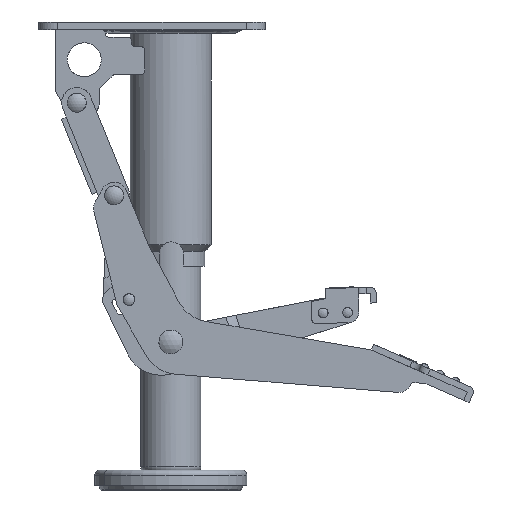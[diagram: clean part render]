
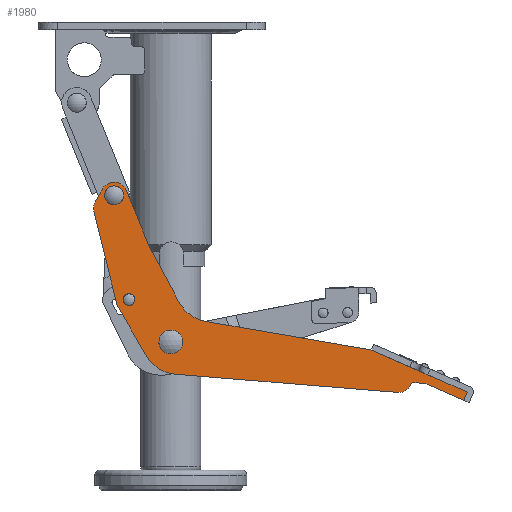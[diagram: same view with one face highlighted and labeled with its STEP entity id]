
A CAD part, left-side view. The second image highlights one B-rep face of the part: STEP entity #1980.
In plain terms, the highlighted planar face has unit normal (-1, 0, 0).
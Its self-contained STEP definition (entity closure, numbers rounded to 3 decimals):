
#1980 = ADVANCED_FACE( '', ( #4052 ), #4053, .T. );
#4052 = FACE_OUTER_BOUND( '', #9283, .T. );
#4053 = PLANE( '', #9284 );
#9283 = EDGE_LOOP( '', ( #14678, #14679, #14680, #14681, #14682, #14683, #14684, #14685, #14686, #14687, #14688, #14689, #14690, #14691, #14692, #14693, #14694, #14695, #14696, #14697 ) );
#9284 = AXIS2_PLACEMENT_3D( '', #14698, #14699, #14700 );
#14678 = ORIENTED_EDGE( '', *, *, #17126, .F. );
#14679 = ORIENTED_EDGE( '', *, *, #17314, .F. );
#14680 = ORIENTED_EDGE( '', *, *, #17470, .F. );
#14681 = ORIENTED_EDGE( '', *, *, #17434, .F. );
#14682 = ORIENTED_EDGE( '', *, *, #16922, .F. );
#14683 = ORIENTED_EDGE( '', *, *, #16864, .F. );
#14684 = ORIENTED_EDGE( '', *, *, #15540, .F. );
#14685 = ORIENTED_EDGE( '', *, *, #16498, .F. );
#14686 = ORIENTED_EDGE( '', *, *, #17439, .F. );
#14687 = ORIENTED_EDGE( '', *, *, #15504, .F. );
#14688 = ORIENTED_EDGE( '', *, *, #17471, .F. );
#14689 = ORIENTED_EDGE( '', *, *, #17210, .F. );
#14690 = ORIENTED_EDGE( '', *, *, #16904, .F. );
#14691 = ORIENTED_EDGE( '', *, *, #17322, .F. );
#14692 = ORIENTED_EDGE( '', *, *, #16393, .F. );
#14693 = ORIENTED_EDGE( '', *, *, #17386, .F. );
#14694 = ORIENTED_EDGE( '', *, *, #17310, .F. );
#14695 = ORIENTED_EDGE( '', *, *, #17472, .F. );
#14696 = ORIENTED_EDGE( '', *, *, #17473, .F. );
#14697 = ORIENTED_EDGE( '', *, *, #17474, .F. );
#14698 = CARTESIAN_POINT( '', ( -30.4, -221.398, -215.539 ) );
#14699 = DIRECTION( '', ( -1., 0., 0. ) );
#14700 = DIRECTION( '', ( 0., 0.999, 0.047 ) );
#15504 = EDGE_CURVE( '', #17899, #17901, #17902, .T. );
#15540 = EDGE_CURVE( '', #17965, #17967, #17968, .T. );
#16393 = EDGE_CURVE( '', #19368, #19370, #19371, .T. );
#16498 = EDGE_CURVE( '', #19538, #17965, #19540, .T. );
#16864 = EDGE_CURVE( '', #17967, #20084, #20085, .T. );
#16904 = EDGE_CURVE( '', #20140, #20142, #20143, .T. );
#16922 = EDGE_CURVE( '', #20084, #20166, #20167, .T. );
#17126 = EDGE_CURVE( '', #20437, #20439, #20440, .F. );
#17210 = EDGE_CURVE( '', #20142, #20552, #20553, .T. );
#17310 = EDGE_CURVE( '', #20662, #20664, #20665, .T. );
#17314 = EDGE_CURVE( '', #20668, #20437, #20670, .T. );
#17322 = EDGE_CURVE( '', #19370, #20140, #20678, .F. );
#17386 = EDGE_CURVE( '', #20664, #19368, #20750, .F. );
#17434 = EDGE_CURVE( '', #20166, #20805, #20806, .T. );
#17439 = EDGE_CURVE( '', #17901, #19538, #20811, .T. );
#17470 = EDGE_CURVE( '', #20805, #20668, #20846, .F. );
#17471 = EDGE_CURVE( '', #20552, #17899, #20847, .T. );
#17472 = EDGE_CURVE( '', #20848, #20662, #20849, .T. );
#17473 = EDGE_CURVE( '', #20850, #20848, #20851, .T. );
#17474 = EDGE_CURVE( '', #20439, #20850, #20852, .T. );
#17899 = VERTEX_POINT( '', #21886 );
#17901 = VERTEX_POINT( '', #21889 );
#17902 = LINE( '', #21890, #21891 );
#17965 = VERTEX_POINT( '', #22071 );
#17967 = VERTEX_POINT( '', #22074 );
#17968 = CIRCLE( '', #22075, 7. );
#19368 = VERTEX_POINT( '', #26435 );
#19370 = VERTEX_POINT( '', #26438 );
#19371 = LINE( '', #26439, #26440 );
#19538 = VERTEX_POINT( '', #26960 );
#19540 = LINE( '', #26963, #26964 );
#20084 = VERTEX_POINT( '', #28575 );
#20085 = LINE( '', #28576, #28577 );
#20140 = VERTEX_POINT( '', #28751 );
#20142 = VERTEX_POINT( '', #28754 );
#20143 = CIRCLE( '', #28755, 6. );
#20166 = VERTEX_POINT( '', #28797 );
#20167 = CIRCLE( '', #28798, 7. );
#20437 = VERTEX_POINT( '', #29518 );
#20439 = VERTEX_POINT( '', #29521 );
#20440 = CIRCLE( '', #29522, 20. );
#20552 = VERTEX_POINT( '', #29983 );
#20553 = LINE( '', #29984, #29985 );
#20662 = VERTEX_POINT( '', #30290 );
#20664 = VERTEX_POINT( '', #30293 );
#20665 = LINE( '', #30294, #30295 );
#20668 = VERTEX_POINT( '', #30299 );
#20670 = LINE( '', #30302, #30303 );
#20678 = CIRCLE( '', #30312, 2. );
#20750 = CIRCLE( '', #30518, 6. );
#20805 = VERTEX_POINT( '', #30637 );
#20806 = LINE( '', #30638, #30639 );
#20811 = CIRCLE( '', #30646, 7. );
#20846 = CIRCLE( '', #30731, 7. );
#20847 = CIRCLE( '', #30732, 20. );
#20848 = VERTEX_POINT( '', #30733 );
#20849 = LINE( '', #30734, #30735 );
#20850 = VERTEX_POINT( '', #30736 );
#20851 = LINE( '', #30737, #30738 );
#20852 = LINE( '', #30739, #30740 );
#21886 = CARTESIAN_POINT( '', ( -30.4, 13.153, -176.697 ) );
#21889 = CARTESIAN_POINT( '', ( -30.4, 28.02, -150.818 ) );
#21890 = CARTESIAN_POINT( '', ( -30.4, 28.02, -150.818 ) );
#21891 = VECTOR( '', #31013, 1000. );
#22071 = CARTESIAN_POINT( '', ( -30.4, 40.726, -100.339 ) );
#22074 = CARTESIAN_POINT( '', ( -30.4, 40.007, -95.194 ) );
#22075 = AXIS2_PLACEMENT_3D( '', #31042, #31043, #31044 );
#26435 = CARTESIAN_POINT( '', ( -30.4, -133.913, -191.522 ) );
#26438 = CARTESIAN_POINT( '', ( -30.4, -128.798, -191.103 ) );
#26439 = CARTESIAN_POINT( '', ( -30.4, -128.798, -191.103 ) );
#26440 = VECTOR( '', #31862, 1000. );
#26960 = CARTESIAN_POINT( '', ( -30.4, 28.747, -149.004 ) );
#26963 = CARTESIAN_POINT( '', ( -30.4, 40.726, -100.339 ) );
#26964 = VECTOR( '', #31963, 1000. );
#28575 = CARTESIAN_POINT( '', ( -30.4, 36.134, -88.414 ) );
#28576 = CARTESIAN_POINT( '', ( -30.4, 36.134, -88.414 ) );
#28577 = VECTOR( '', #32315, 1000. );
#28751 = CARTESIAN_POINT( '', ( -30.4, -126.756, -192.41 ) );
#28754 = CARTESIAN_POINT( '', ( -30.4, -120.632, -196.329 ) );
#28755 = AXIS2_PLACEMENT_3D( '', #32355, #32356, #32357 );
#28797 = CARTESIAN_POINT( '', ( -30.4, 23.572, -89.245 ) );
#28798 = AXIS2_PLACEMENT_3D( '', #32376, #32377, #32378 );
#29518 = CARTESIAN_POINT( '', ( -30.4, -4.355, -148.417 ) );
#29521 = CARTESIAN_POINT( '', ( -30.4, -18.582, -158.681 ) );
#29522 = AXIS2_PLACEMENT_3D( '', #32546, #32547, #32548 );
#29983 = CARTESIAN_POINT( '', ( -30.4, -2.558, -186.668 ) );
#29984 = CARTESIAN_POINT( '', ( -30.4, -2.558, -186.668 ) );
#29985 = VECTOR( '', #32608, 1000. );
#30290 = CARTESIAN_POINT( '', ( -30.4, -155.142, -200.474 ) );
#30293 = CARTESIAN_POINT( '', ( -30.4, -135.833, -192.007 ) );
#30294 = CARTESIAN_POINT( '', ( -30.4, -135.833, -192.007 ) );
#30295 = VECTOR( '', #32700, 1000. );
#30299 = CARTESIAN_POINT( '', ( -30.4, 11.432, -118.951 ) );
#30302 = CARTESIAN_POINT( '', ( -30.4, -4.355, -148.417 ) );
#30303 = VECTOR( '', #32703, 1000. );
#30312 = AXIS2_PLACEMENT_3D( '', #32705, #32706, #32707 );
#30518 = AXIS2_PLACEMENT_3D( '', #32741, #32742, #32743 );
#30637 = CARTESIAN_POINT( '', ( -30.4, 11.744, -118.286 ) );
#30638 = CARTESIAN_POINT( '', ( -30.4, 11.744, -118.286 ) );
#30639 = VECTOR( '', #32786, 1000. );
#30646 = AXIS2_PLACEMENT_3D( '', #32789, #32790, #32791 );
#30731 = AXIS2_PLACEMENT_3D( '', #32803, #32804, #32805 );
#30732 = AXIS2_PLACEMENT_3D( '', #32806, #32807, #32808 );
#30733 = CARTESIAN_POINT( '', ( -30.4, -157.069, -196.078 ) );
#30734 = CARTESIAN_POINT( '', ( -30.4, -155.142, -200.474 ) );
#30735 = VECTOR( '', #32809, 1000. );
#30736 = CARTESIAN_POINT( '', ( -30.4, -106.333, -173.83 ) );
#30737 = CARTESIAN_POINT( '', ( -30.4, -157.069, -196.078 ) );
#30738 = VECTOR( '', #32810, 1000. );
#30739 = CARTESIAN_POINT( '', ( -30.4, -106.333, -173.83 ) );
#30740 = VECTOR( '', #32811, 1000. );
#31013 = DIRECTION( '', ( 0., 0.498, 0.867 ) );
#31042 = CARTESIAN_POINT( '', ( -30.4, 33.929, -98.666 ) );
#31043 = DIRECTION( '', ( 1., 0., 0. ) );
#31044 = DIRECTION( '', ( 0., 0., -1. ) );
#31862 = DIRECTION( '', ( 0., 0.997, 0.082 ) );
#31963 = DIRECTION( '', ( 0., 0.239, 0.971 ) );
#32315 = DIRECTION( '', ( 0., -0.496, 0.868 ) );
#32355 = CARTESIAN_POINT( '', ( -30.4, -121.121, -190.349 ) );
#32356 = DIRECTION( '', ( 1., 0., 0. ) );
#32357 = DIRECTION( '', ( 0., 0., -1. ) );
#32376 = CARTESIAN_POINT( '', ( -30.4, 30.055, -91.886 ) );
#32377 = DIRECTION( '', ( 1., 0., 0. ) );
#32378 = DIRECTION( '', ( 0., 0., -1. ) );
#32546 = CARTESIAN_POINT( '', ( -30.4, -21.984, -138.973 ) );
#32547 = DIRECTION( '', ( 1., 0., 0. ) );
#32548 = DIRECTION( '', ( 0., 0., -1. ) );
#32608 = DIRECTION( '', ( 0., 0.997, 0.082 ) );
#32700 = DIRECTION( '', ( 0., 0.916, 0.402 ) );
#32703 = DIRECTION( '', ( 0., -0.472, -0.881 ) );
#32705 = CARTESIAN_POINT( '', ( -30.4, -128.635, -193.097 ) );
#32706 = DIRECTION( '', ( 1., 0., 0. ) );
#32707 = DIRECTION( '', ( 0., 0., -1. ) );
#32741 = CARTESIAN_POINT( '', ( -30.4, -133.424, -197.502 ) );
#32742 = DIRECTION( '', ( 1., 0., 0. ) );
#32743 = DIRECTION( '', ( 0., 0., -1. ) );
#32786 = DIRECTION( '', ( 0., -0.377, -0.926 ) );
#32789 = CARTESIAN_POINT( '', ( -30.4, 21.95, -147.331 ) );
#32790 = DIRECTION( '', ( 1., 0., 0. ) );
#32791 = DIRECTION( '', ( 0., 0., -1. ) );
#32803 = CARTESIAN_POINT( '', ( -30.4, 5.261, -115.645 ) );
#32804 = DIRECTION( '', ( 1., 0., 0. ) );
#32805 = DIRECTION( '', ( 0., 0., -1. ) );
#32806 = CARTESIAN_POINT( '', ( -30.4, -4.189, -166.735 ) );
#32807 = DIRECTION( '', ( 1., 0., 0. ) );
#32808 = DIRECTION( '', ( 0., 0., -1. ) );
#32809 = DIRECTION( '', ( 0., 0.402, -0.916 ) );
#32810 = DIRECTION( '', ( 0., -0.916, -0.402 ) );
#32811 = DIRECTION( '', ( 0., -0.985, -0.17 ) );
